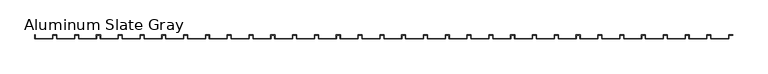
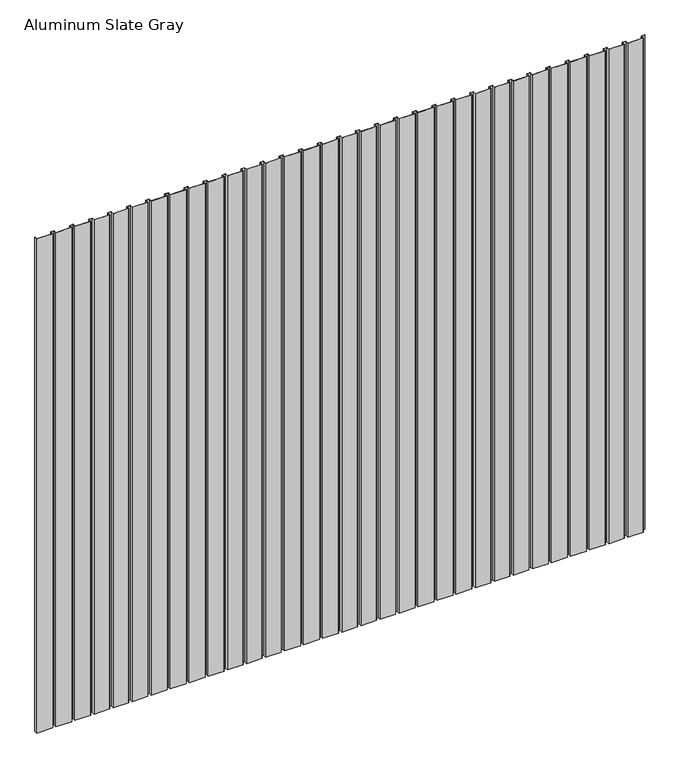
"""IFC4 building model written with IfcOpenShell, lengths in millimetres: proxy geometry, TitanTek VariPanel PLANK 950 : Aluminum Slate Gray."""

from ifc_helpers import new_model, si_unit, origin, origin_with_axes, place, context, project, spatial, polyline, outline, extrude, source, transform, mapped, element, save


def aluminum_slate_gray_56dc9e37(model_context):
    return source(origin(), model_context, "Body", "SweptSolid", [
        extrude(outline(polyline([(4648.2, -0.9921875), (4648.2, -25.4), (4527.55, -25.4), (4527.55, -0.9921875), (4502.15, -0.9921875), (4502.15, -25.4), (4381.5, -25.4), (4381.5, 0.0), (4382.4921875, 0.0), (4382.4921875, -24.4078125), (4501.1578125, -24.4078125), (4501.1578125, 0.0), (4528.5421875, 0.0), (4528.5421875, -24.4078125), (4647.2078125, -24.4078125), (4647.2078125, 0.0), (4673.6, 0.0), (4673.6, -0.9921875), (4648.2, -0.9921875)])), origin_with_axes(), (0.0, 0.0, 1.0), 4000.0),
        extrude(outline(polyline([(4356.1, -0.9921875), (4356.1, -25.4), (4235.45, -25.4), (4235.45, -0.9921875), (4210.05, -0.9921875), (4210.05, -25.4), (4089.4, -25.4), (4089.4, 0.0), (4090.3921875, 0.0), (4090.3921875, -24.4078125), (4209.0578125, -24.4078125), (4209.0578125, 0.0), (4236.4421875, 0.0), (4236.4421875, -24.4078125), (4355.1078125, -24.4078125), (4355.1078125, 0.0), (4381.5, 0.0), (4381.5, -0.9921875), (4356.1, -0.9921875)])), origin_with_axes(), (0.0, 0.0, 1.0), 4000.0),
        extrude(outline(polyline([(4064.0, -0.9921875), (4064.0, -25.4), (3943.35, -25.4), (3943.35, -0.9921875), (3917.95, -0.9921875), (3917.95, -25.4), (3797.3, -25.4), (3797.3, 0.0), (3798.2921875, 0.0), (3798.2921875, -24.4078125), (3916.9578125, -24.4078125), (3916.9578125, 0.0), (3944.3421875, 0.0), (3944.3421875, -24.4078125), (4063.0078125, -24.4078125), (4063.0078125, 0.0), (4089.4, 0.0), (4089.4, -0.9921875), (4064.0, -0.9921875)])), origin_with_axes(), (0.0, 0.0, 1.0), 4000.0),
        extrude(outline(polyline([(3771.9, -0.9921875), (3771.9, -25.4), (3651.25, -25.4), (3651.25, -0.9921875), (3625.85, -0.9921875), (3625.85, -25.4), (3505.2, -25.4), (3505.2, 0.0), (3506.1921875, 0.0), (3506.1921875, -24.4078125), (3624.8578125, -24.4078125), (3624.8578125, 0.0), (3652.2421875, 0.0), (3652.2421875, -24.4078125), (3770.9078125, -24.4078125), (3770.9078125, 0.0), (3797.3, 0.0), (3797.3, -0.9921875), (3771.9, -0.9921875)])), origin_with_axes(), (0.0, 0.0, 1.0), 4000.0),
        extrude(outline(polyline([(3479.8, -0.9921875), (3479.8, -25.4), (3359.15, -25.4), (3359.15, -0.9921875), (3333.75, -0.9921875), (3333.75, -25.4), (3213.1, -25.4), (3213.1, 0.0), (3214.0921875, 0.0), (3214.0921875, -24.4078125), (3332.7578125, -24.4078125), (3332.7578125, 0.0), (3360.1421875, 0.0), (3360.1421875, -24.4078125), (3478.8078125, -24.4078125), (3478.8078125, 0.0), (3505.2, 0.0), (3505.2, -0.9921875), (3479.8, -0.9921875)])), origin_with_axes(), (0.0, 0.0, 1.0), 4000.0),
        extrude(outline(polyline([(3187.7, -0.9921875), (3187.7, -25.4), (3067.05, -25.4), (3067.05, -0.9921875), (3041.65, -0.9921875), (3041.65, -25.4), (2921.0, -25.4), (2921.0, 0.0), (2921.9921875, 0.0), (2921.9921875, -24.4078125), (3040.6578125, -24.4078125), (3040.6578125, 0.0), (3068.0421875, 0.0), (3068.0421875, -24.4078125), (3186.7078125, -24.4078125), (3186.7078125, 0.0), (3213.1, 0.0), (3213.1, -0.9921875), (3187.7, -0.9921875)])), origin_with_axes(), (0.0, 0.0, 1.0), 4000.0),
        extrude(outline(polyline([(2895.6, -0.9921875), (2895.6, -25.4), (2774.95, -25.4), (2774.95, -0.9921875), (2749.55, -0.9921875), (2749.55, -25.4), (2628.9, -25.4), (2628.9, 0.0), (2629.8921875, 0.0), (2629.8921875, -24.4078125), (2748.5578125, -24.4078125), (2748.5578125, 0.0), (2775.9421875, 0.0), (2775.9421875, -24.4078125), (2894.6078125, -24.4078125), (2894.6078125, 0.0), (2921.0, 0.0), (2921.0, -0.9921875), (2895.6, -0.9921875)])), origin_with_axes(), (0.0, 0.0, 1.0), 4000.0),
        extrude(outline(polyline([(2603.5, -0.9921875), (2603.5, -25.4), (2482.85, -25.4), (2482.85, -0.9921875), (2457.45, -0.9921875), (2457.45, -25.4), (2336.8, -25.4), (2336.8, 0.0), (2337.7921875, 0.0), (2337.7921875, -24.4078125), (2456.4578125, -24.4078125), (2456.4578125, 0.0), (2483.8421875, 0.0), (2483.8421875, -24.4078125), (2602.5078125, -24.4078125), (2602.5078125, 0.0), (2628.9, 0.0), (2628.9, -0.9921875), (2603.5, -0.9921875)])), origin_with_axes(), (0.0, 0.0, 1.0), 4000.0),
        extrude(outline(polyline([(2311.4, -0.9921875), (2311.4, -25.4), (2190.75, -25.4), (2190.75, -0.9921875), (2165.35, -0.9921875), (2165.35, -25.4), (2044.7, -25.4), (2044.7, 0.0), (2045.6921875, 0.0), (2045.6921875, -24.4078125), (2164.3578125, -24.4078125), (2164.3578125, 0.0), (2191.7421875, 0.0), (2191.7421875, -24.4078125), (2310.4078125, -24.4078125), (2310.4078125, 0.0), (2336.8, 0.0), (2336.8, -0.9921875), (2311.4, -0.9921875)])), origin_with_axes(), (0.0, 0.0, 1.0), 4000.0),
        extrude(outline(polyline([(2019.3, -0.9921875), (2019.3, -25.4), (1898.65, -25.4), (1898.65, -0.9921875), (1873.25, -0.9921875), (1873.25, -25.4), (1752.6, -25.4), (1752.6, 0.0), (1753.5921875, 0.0), (1753.5921875, -24.4078125), (1872.2578125, -24.4078125), (1872.2578125, 0.0), (1899.6421875, 0.0), (1899.6421875, -24.4078125), (2018.3078125, -24.4078125), (2018.3078125, 0.0), (2044.7, 0.0), (2044.7, -0.9921875), (2019.3, -0.9921875)])), origin_with_axes(), (0.0, 0.0, 1.0), 4000.0),
        extrude(outline(polyline([(1727.2, -0.9921875), (1727.2, -25.4), (1606.55, -25.4), (1606.55, -0.9921875), (1581.15, -0.9921875), (1581.15, -25.4), (1460.5, -25.4), (1460.5, 0.0), (1461.4921875, 0.0), (1461.4921875, -24.4078125), (1580.1578125, -24.4078125), (1580.1578125, 0.0), (1607.5421875, 0.0), (1607.5421875, -24.4078125), (1726.2078125, -24.4078125), (1726.2078125, 0.0), (1752.6, 0.0), (1752.6, -0.9921875), (1727.2, -0.9921875)])), origin_with_axes(), (0.0, 0.0, 1.0), 4000.0),
        extrude(outline(polyline([(1435.1, -0.9921875), (1435.1, -25.4), (1314.45, -25.4), (1314.45, -0.9921875), (1289.05, -0.9921875), (1289.05, -25.4), (1168.4, -25.4), (1168.4, 0.0), (1169.3921875, 0.0), (1169.3921875, -24.4078125), (1288.0578125, -24.4078125), (1288.0578125, 0.0), (1315.4421875, 0.0), (1315.4421875, -24.4078125), (1434.1078125, -24.4078125), (1434.1078125, 0.0), (1460.5, 0.0), (1460.5, -0.9921875), (1435.1, -0.9921875)])), origin_with_axes(), (0.0, 0.0, 1.0), 4000.0),
        extrude(outline(polyline([(1143.0, -0.9921875), (1143.0, -25.4), (1022.35, -25.4), (1022.35, -0.9921875), (996.95, -0.9921875), (996.95, -25.4), (876.3, -25.4), (876.3, 0.0), (877.2921875, 0.0), (877.2921875, -24.4078125), (995.9578125, -24.4078125), (995.9578125, 0.0), (1023.3421875, 0.0), (1023.3421875, -24.4078125), (1142.0078125, -24.4078125), (1142.0078125, 0.0), (1168.4, 0.0), (1168.4, -0.9921875), (1143.0, -0.9921875)])), origin_with_axes(), (0.0, 0.0, 1.0), 4000.0),
        extrude(outline(polyline([(850.9, -0.9921875), (850.9, -25.4), (730.25, -25.4), (730.25, -0.9921875), (704.85, -0.9921875), (704.85, -25.4), (584.2, -25.4), (584.2, 0.0), (585.1921875, 0.0), (585.1921875, -24.4078125), (703.8578125, -24.4078125), (703.8578125, 0.0), (731.2421875, 0.0), (731.2421875, -24.4078125), (849.9078125, -24.4078125), (849.9078125, 0.0), (876.3, 0.0), (876.3, -0.9921875), (850.9, -0.9921875)])), origin_with_axes(), (0.0, 0.0, 1.0), 4000.0),
        extrude(outline(polyline([(558.8, -0.9921875), (558.8, -25.4), (438.15, -25.4), (438.15, -0.9921875), (412.75, -0.9921875), (412.75, -25.4), (292.1, -25.4), (292.1, 0.0), (293.0921875, 0.0), (293.0921875, -24.4078125), (411.7578125, -24.4078125), (411.7578125, 0.0), (439.1421875, 0.0), (439.1421875, -24.4078125), (557.8078125, -24.4078125), (557.8078125, 0.0), (584.2, 0.0), (584.2, -0.9921875), (558.8, -0.9921875)])), origin_with_axes(), (0.0, 0.0, 1.0), 4000.0),
        extrude(outline(polyline([(266.7, -0.9921875), (266.7, -25.4), (146.05, -25.4), (146.05, -0.9921875), (120.65, -0.9921875), (120.65, -25.4), (0.0, -25.4), (0.0, 0.0), (0.9921875, 0.0), (0.9921875, -24.4078125), (119.6578125, -24.4078125), (119.6578125, 0.0), (147.0421875, 0.0), (147.0421875, -24.4078125), (265.7078125, -24.4078125), (265.7078125, 0.0), (292.1, 0.0), (292.1, -0.9921875), (266.7, -0.9921875)])), origin_with_axes(), (0.0, 0.0, 1.0), 4000.0),
    ])


if __name__ == "__main__":
    model = new_model("IFC4")
    model_context = context("Model", 3, world=origin())
    ifc_project = project(units=[si_unit("LENGTHUNIT", "METRE", prefix="MILLI")], contexts=[model_context])
    site = spatial("IfcSite", under=ifc_project)
    building = spatial("IfcBuilding", under=site)
    placement = place(None, origin())
    aluminum_slate_gray_shape = aluminum_slate_gray_56dc9e37(model_context)
    element("IfcBuildingElementProxy", 1, Name="TitanTek VariPanel PLANK 950 : Aluminum Slate Gray", ObjectType="TitanTek VariPanel PLANK 950 : Aluminum Slate Gray", at=placement, inside=building, context=model_context, shape_type="MappedRepresentation", body=[
        mapped(aluminum_slate_gray_shape, transform((0.0, 0.0, 0.0), x_axis=(1.0, 0.0, 0.0), y_axis=(0.0, 1.0, 0.0), z_axis=(0.0, 0.0, 1.0))),
    ])
    save(model, "model.ifc")
